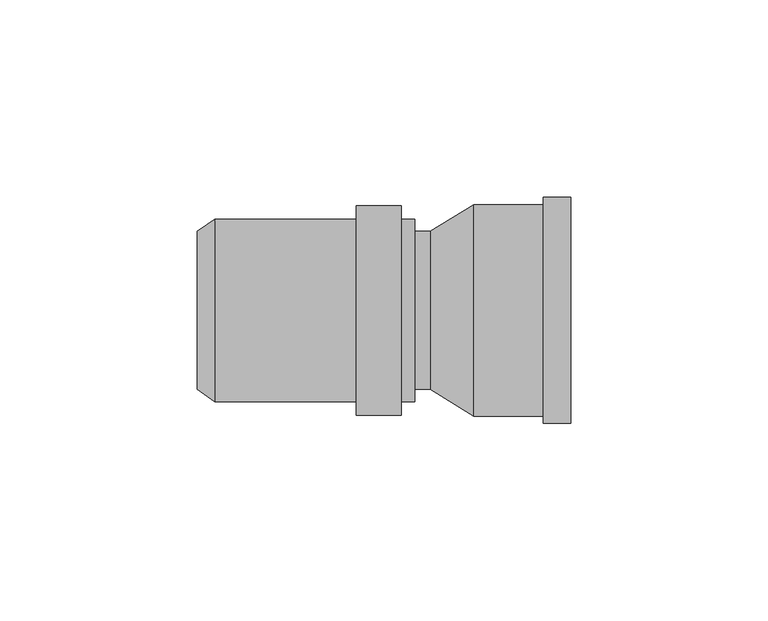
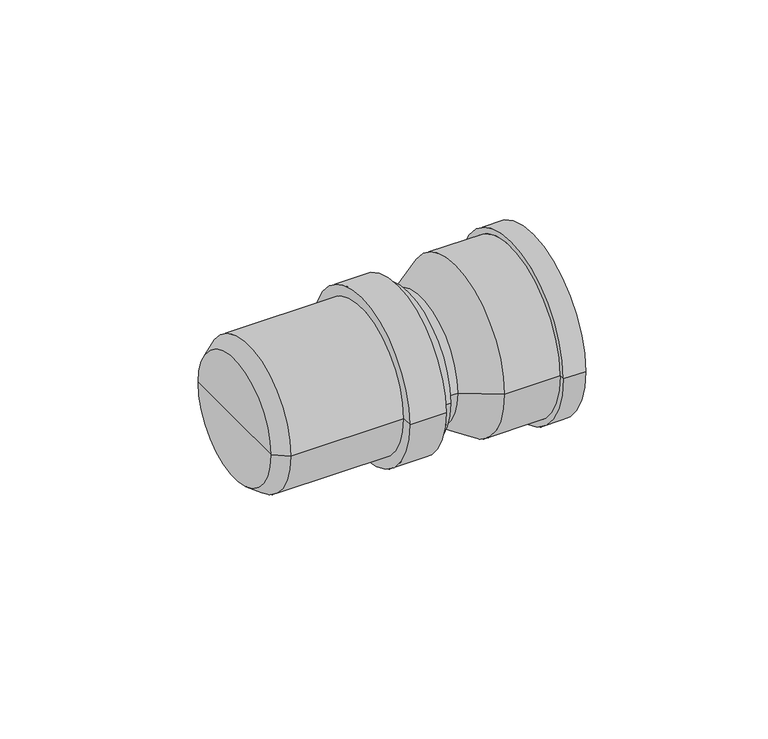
"""IFC4 building model written with IfcOpenShell, lengths in millimetres: pipe fitting geometry, pf_HTS : pf_HTS."""

from ifc_helpers import new_model, si_unit, point, frame, origin, origin_2d, place, context, project, spatial, polyline, circle_curve, trimmed, segment, composite_curve, outline, extrude, source, transform, mapped, element, save
from ifc_brep_helpers import plane_surface, cylinder_surface, revolved_surface, advanced_brep


def pipe_fitting_507c36dd(model_context):
    return source(origin(), model_context, "Body", "SolidModel", [
        advanced_brep(
        [(-59.0, -20.0, 0.0), (-59.0, 20.0, 0.0), (-54.6, 23.1, 0.0), (-54.6, -23.1, 0.0), (-59.0, 0.0, 0.0), (-4.0, -23.1, 0.0), (-4.0, 23.1, 0.0), (-4.0, 20.0, 0.0), (-4.0, -20.0, 0.0), (-7.4, -23.1, 0.0), (-7.4, 23.1, 0.0), (-7.4, -26.5, 0.0), (-7.4, 26.5, 0.0), (-18.8, -26.5, 0.0), (-18.8, 26.5, 0.0), (-18.8, -23.1, 0.0), (-18.8, 23.1, 0.0), (-54.6, -20.0, 0.0), (-54.6, 20.0, 0.0), (-54.6, 0.0, 0.0)],
        [
            (0, 1, circle_curve(frame((-59.0, 0.0, 0.0), z_axis=(1.0, 0.0, 0.0), x_axis=(0.0, 1.0, 0.0)), 20.0)),
            (1, 2),
            (2, 3, circle_curve(frame((-54.6, 0.0, 0.0), z_axis=(-1.0, 0.0, 0.0), x_axis=(0.0, 1.0, 0.0)), 23.1)),
            (3, 0),
            (1, 0, circle_curve(frame((-59.0, 0.0, 0.0), z_axis=(1.0, 0.0, 0.0), x_axis=(0.0, 1.0, 0.0)), 20.0)),
            (3, 2, circle_curve(frame((-54.6, 0.0, 0.0), z_axis=(-1.0, 0.0, 0.0), x_axis=(0.0, 1.0, 0.0)), 23.1)),
            (4, 1),
            (0, 4),
            (5, 6, circle_curve(frame((-4.0, 0.0, 0.0), z_axis=(1.0, 0.0, 0.0), x_axis=(0.0, 1.0, 0.0)), 23.1)),
            (6, 7),
            (7, 8, circle_curve(frame((-4.0, 0.0, 0.0), z_axis=(-1.0, 0.0, 0.0), x_axis=(0.0, 1.0, 0.0)), 20.0)),
            (8, 5),
            (6, 5, circle_curve(frame((-4.0, 0.0, 0.0), z_axis=(1.0, 0.0, 0.0), x_axis=(0.0, 1.0, 0.0)), 23.1)),
            (8, 7, circle_curve(frame((-4.0, 0.0, 0.0), z_axis=(-1.0, 0.0, 0.0), x_axis=(0.0, 1.0, 0.0)), 20.0)),
            (9, 10, circle_curve(frame((-7.4, 0.0, 0.0), z_axis=(1.0, 0.0, 0.0), x_axis=(0.0, 1.0, 0.0)), 23.1)),
            (10, 6),
            (5, 9),
            (10, 9, circle_curve(frame((-7.4, 0.0, 0.0), z_axis=(1.0, 0.0, 0.0), x_axis=(0.0, 1.0, 0.0)), 23.1)),
            (11, 12, circle_curve(frame((-7.4, 0.0, 0.0), z_axis=(1.0, 0.0, 0.0), x_axis=(0.0, 1.0, 0.0)), 26.5)),
            (12, 10),
            (9, 11),
            (12, 11, circle_curve(frame((-7.4, 0.0, 0.0), z_axis=(1.0, 0.0, 0.0), x_axis=(0.0, 1.0, 0.0)), 26.5)),
            (13, 14, circle_curve(frame((-18.8, 0.0, 0.0), z_axis=(1.0, 0.0, 0.0), x_axis=(0.0, 1.0, 0.0)), 26.5)),
            (14, 12),
            (11, 13),
            (14, 13, circle_curve(frame((-18.8, 0.0, 0.0), z_axis=(1.0, 0.0, 0.0), x_axis=(0.0, 1.0, 0.0)), 26.5)),
            (15, 16, circle_curve(frame((-18.8, 0.0, 0.0), z_axis=(1.0, 0.0, 0.0), x_axis=(0.0, 1.0, 0.0)), 23.1)),
            (16, 14),
            (13, 15),
            (16, 15, circle_curve(frame((-18.8, 0.0, 0.0), z_axis=(1.0, 0.0, 0.0), x_axis=(0.0, 1.0, 0.0)), 23.1)),
            (2, 16),
            (15, 3),
            (17, 18, circle_curve(frame((-54.6, 0.0, 0.0), z_axis=(1.0, 0.0, 0.0), x_axis=(0.0, 1.0, 0.0)), 20.0)),
            (18, 19),
            (19, 17),
            (18, 17, circle_curve(frame((-54.6, 0.0, 0.0), z_axis=(1.0, 0.0, 0.0), x_axis=(0.0, 1.0, 0.0)), 20.0)),
            (7, 18),
            (17, 8),
        ],
        [
            revolved_surface(polyline([(-54.6, 23.1, 0.0), (-59.0, 20.0, 0.0)]), (-59.0, 0.0, 0.0), (-1.0, 0.0, 0.0)),
            plane_surface(frame((-59.0, 0.0, 0.0), z_axis=(-1.0, 0.0, 0.0), x_axis=(0.0, 1.0, 0.0))),
            plane_surface(frame((-4.0, 0.0, 0.0), z_axis=(1.0, 0.0, 0.0), x_axis=(0.0, 1.0, 0.0))),
            cylinder_surface(frame((-59.0, 0.0, 0.0), z_axis=(-1.0, 0.0, 0.0), x_axis=(0.0, 1.0, 0.0)), 23.1),
            plane_surface(frame((-7.4, 0.0, 0.0), z_axis=(1.0, 0.0, 0.0), x_axis=(0.0, 1.0, 0.0))),
            cylinder_surface(frame((-59.0, 0.0, 0.0), z_axis=(-1.0, 0.0, 0.0), x_axis=(0.0, 1.0, 0.0)), 26.5),
            plane_surface(frame((-18.8, 0.0, 0.0), z_axis=(-1.0, 0.0, 0.0), x_axis=(0.0, 1.0, 0.0))),
            plane_surface(frame((-54.6, 0.0, 0.0), z_axis=(1.0, 0.0, 0.0), x_axis=(0.0, 1.0, 0.0))),
            revolved_surface(polyline([(-54.6, 20.0, 0.0), (-4.0, 20.0, 0.0)]), (-59.0, 0.0, 0.0), (-1.0, 0.0, 0.0)),
        ],
        [
            (0, [[1, 2, 3, 4]]),
            (0, [[5, -4, 6, -2]]),
            (1, [[7, -1, 8]]),
            (1, [[-8, -5, -7]]),
            (2, [[9, 10, 11, 12]]),
            (2, [[13, -12, 14, -10]]),
            (3, [[15, 16, -9, 17]]),
            (3, [[18, -17, -13, -16]]),
            (4, [[19, 20, -15, 21]]),
            (4, [[22, -21, -18, -20]]),
            (5, [[23, 24, -19, 25]]),
            (5, [[26, -25, -22, -24]]),
            (6, [[27, 28, -23, 29]]),
            (6, [[30, -29, -26, -28]]),
            (3, [[-3, 31, -27, 32]]),
            (3, [[-6, -32, -30, -31]]),
            (7, [[33, 34, 35]]),
            (7, [[36, -35, -34]]),
            (8, [[-11, 37, -33, 38]]),
            (8, [[-14, -38, -36, -37]]),
        ],
    ),
        extrude(outline(composite_curve([segment(trimmed(circle_curve(origin_2d(), 20.0), [point((-20.0, 0.0))], [point((20.0, 0.0))], False, "CARTESIAN"), True, "CONTINUOUS"), segment(trimmed(circle_curve(origin_2d(), 20.0), [point((20.0, 0.0))], [point((-20.0, 0.0))], False, "CARTESIAN"), True, "CONTINUOUS")], self_intersect=False)), frame((-4.0, 0.0, 0.0), z_axis=(1.0, 0.0, 0.0), x_axis=(0.0, 1.0, 0.0)), (0.0, 0.0, 1.0), 4.0),
        advanced_brep(
        [(35.5, -25.0, 0.0), (35.5, 25.0, 0.0), (11.0, 25.0, 0.0), (11.0, -25.0, 0.0), (35.5, -28.6, 0.0), (35.5, 28.6, 0.0), (11.0, -26.8, 0.0), (11.0, 26.8, 0.0), (28.5184027, 26.8, 0.0), (28.5184027, -26.8, 0.0), (0.0, -20.0, 0.0), (0.0, 20.0, 0.0), (0.0, 0.0, 0.0), (28.5184027, 28.6, 0.0), (28.5184027, -28.6, 0.0), (11.0, 0.0, 0.0)],
        [
            (0, 1, circle_curve(frame((35.5, 0.0, 0.0), z_axis=(1.0, 0.0, 0.0), x_axis=(0.0, 1.0, 0.0)), 25.0)),
            (1, 2),
            (2, 3, circle_curve(frame((11.0, 0.0, 0.0), z_axis=(-1.0, 0.0, 0.0), x_axis=(0.0, 1.0, 0.0)), 25.0)),
            (3, 0),
            (4, 5, circle_curve(frame((35.5, 0.0, 0.0), z_axis=(1.0, 0.0, 0.0), x_axis=(0.0, 1.0, 0.0)), 28.6)),
            (5, 1),
            (0, 4),
            (6, 7, circle_curve(frame((11.0, 0.0, 0.0), z_axis=(1.0, 0.0, 0.0), x_axis=(0.0, 1.0, 0.0)), 26.8)),
            (7, 8),
            (8, 9, circle_curve(frame((28.5184027, 0.0, 0.0), z_axis=(-1.0, 0.0, 0.0), x_axis=(0.0, 1.0, 0.0)), 26.8)),
            (9, 6),
            (10, 11, circle_curve(frame((0.0, 0.0, 0.0), z_axis=(1.0, 0.0, 0.0), x_axis=(0.0, 1.0, 0.0)), 20.0)),
            (11, 7),
            (6, 10),
            (12, 11),
            (10, 12),
            (8, 13),
            (13, 14, circle_curve(frame((28.5184027, 0.0, 0.0), z_axis=(-1.0, 0.0, 0.0), x_axis=(0.0, 1.0, 0.0)), 28.6)),
            (14, 9),
            (1, 0, circle_curve(frame((35.5, 0.0, 0.0), z_axis=(1.0, 0.0, 0.0), x_axis=(0.0, 1.0, 0.0)), 25.0)),
            (3, 2, circle_curve(frame((11.0, 0.0, 0.0), z_axis=(-1.0, 0.0, 0.0), x_axis=(0.0, 1.0, 0.0)), 25.0)),
            (5, 4, circle_curve(frame((35.5, 0.0, 0.0), z_axis=(1.0, 0.0, 0.0), x_axis=(0.0, 1.0, 0.0)), 28.6)),
            (13, 5),
            (4, 14),
            (13, 14, circle_curve(frame((28.5184027, 0.0, 0.0), z_axis=(1.0, 0.0, 0.0), x_axis=(0.0, 1.0, 0.0)), 28.6)),
            (8, 9, circle_curve(frame((28.5184027, 0.0, 0.0), z_axis=(1.0, 0.0, 0.0), x_axis=(0.0, 1.0, 0.0)), 26.8)),
            (7, 6, circle_curve(frame((11.0, 0.0, 0.0), z_axis=(1.0, 0.0, 0.0), x_axis=(0.0, 1.0, 0.0)), 26.8)),
            (11, 10, circle_curve(frame((0.0, 0.0, 0.0), z_axis=(1.0, 0.0, 0.0), x_axis=(0.0, 1.0, 0.0)), 20.0)),
            (2, 15),
            (15, 3),
        ],
        [
            revolved_surface(polyline([(11.0, 25.0, 0.0), (35.5, 25.0, 0.0)]), (41.5, 0.0, 0.0), (-1.0, 0.0, 0.0)),
            plane_surface(frame((35.5, 0.0, 0.0), z_axis=(1.0, 0.0, 0.0), x_axis=(0.0, 1.0, 0.0))),
            cylinder_surface(frame((41.5, 0.0, 0.0), z_axis=(-1.0, 0.0, 0.0), x_axis=(0.0, 1.0, 0.0)), 26.8),
            revolved_surface(polyline([(11.0, 26.8, 0.0), (0.0, 20.0, 0.0)]), (41.5, 0.0, 0.0), (-1.0, 0.0, 0.0)),
            plane_surface(frame((0.0, 0.0, 0.0), z_axis=(-1.0, 0.0, 0.0), x_axis=(0.0, 1.0, 0.0))),
            plane_surface(frame((28.5184027, 0.0, 0.0), z_axis=(-1.0, 0.0, 0.0), x_axis=(0.0, 1.0, 0.0))),
            cylinder_surface(frame((41.5, 0.0, 0.0), z_axis=(-1.0, 0.0, 0.0), x_axis=(0.0, 1.0, 0.0)), 28.6),
            plane_surface(frame((11.0, 0.0, 0.0), z_axis=(1.0, 0.0, 0.0), x_axis=(0.0, 1.0, 0.0))),
        ],
        [
            (0, [[1, 2, 3, 4]]),
            (1, [[5, 6, -1, 7]]),
            (2, [[8, 9, 10, 11]]),
            (3, [[12, 13, -8, 14]]),
            (4, [[15, -12, 16]]),
            (5, [[-10, 17, 18, 19]]),
            (0, [[20, -4, 21, -2]]),
            (1, [[22, -7, -20, -6]]),
            (6, [[-18, 23, -5, 24]]),
            (6, [[25, -24, -22, -23]]),
            (5, [[26, -19, -25, -17]]),
            (2, [[27, -11, -26, -9]]),
            (3, [[28, -14, -27, -13]]),
            (4, [[-16, -28, -15]]),
            (7, [[-3, 29, 30]]),
            (7, [[-21, -30, -29]]),
        ],
    ),
    ])


if __name__ == "__main__":
    model = new_model("IFC4")
    model_context = context("Model", 3, world=origin())
    ifc_project = project(units=[si_unit("LENGTHUNIT", "METRE", prefix="MILLI")], contexts=[model_context])
    site = spatial("IfcSite", under=ifc_project)
    building = spatial("IfcBuilding", under=site)
    placement = place(None, origin())
    pipe_fitting_shape = pipe_fitting_507c36dd(model_context)
    element("IfcPipeFitting", 1, ObjectType="pf_HTS : pf_HTS", at=placement, inside=building, context=model_context, shape_type="MappedRepresentation", body=[
        mapped(pipe_fitting_shape, transform((0.0, 0.0, 0.0), x_axis=(1.0, 0.0, 0.0), y_axis=(0.0, 1.0, 0.0), z_axis=(0.0, 0.0, 1.0))),
    ])
    save(model, "model.ifc")
